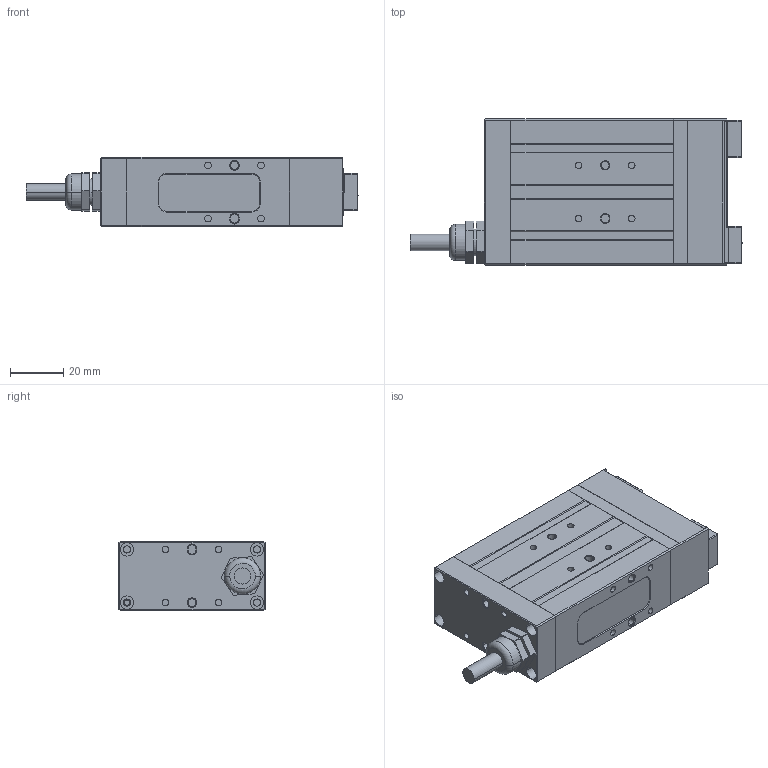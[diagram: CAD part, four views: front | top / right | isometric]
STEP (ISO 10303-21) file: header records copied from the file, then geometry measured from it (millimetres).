
FILE_DESCRIPTION (( 'STEP AP203' ), '1' );
FILE_NAME ('Z-EFG-26.STEP', '2021-08-19T02:54:52', ( '' ), ( '' ), 'SwSTEP 2.0', 'SolidWorks 2018', '' );
FILE_SCHEMA (( 'CONFIG_CONTROL_DESIGN' ));
Length unit declared in the file: millimetre
Products named in the file (4): Z-EFG-26; Z-EFG-26_2; Z-EFG-26_3
Assembly tree (3 placements, depth 2):
  Z-EFG-26
    Z-EFG-26
    Z-EFG-26_2
    Z-EFG-26_3
Bounding box: 125 x 55 x 26 mm (x, y, z)
Volume: 126828.6 mm3; surface area: 28181.4 mm2
Topology: 3 solids, 20 shells, 617 faces, 1410 edges, 885 vertices
Faces by surface type: plane 344, cylinder 170, cone 101, torus 2
Entity records: 17687 total; most frequent: DIRECTION 3124, CARTESIAN_POINT 3012, ORIENTED_EDGE 2812, EDGE_CURVE 1406, AXIS2_PLACEMENT_3D 1118, VECTOR 888, LINE 888, VERTEX_POINT 885
